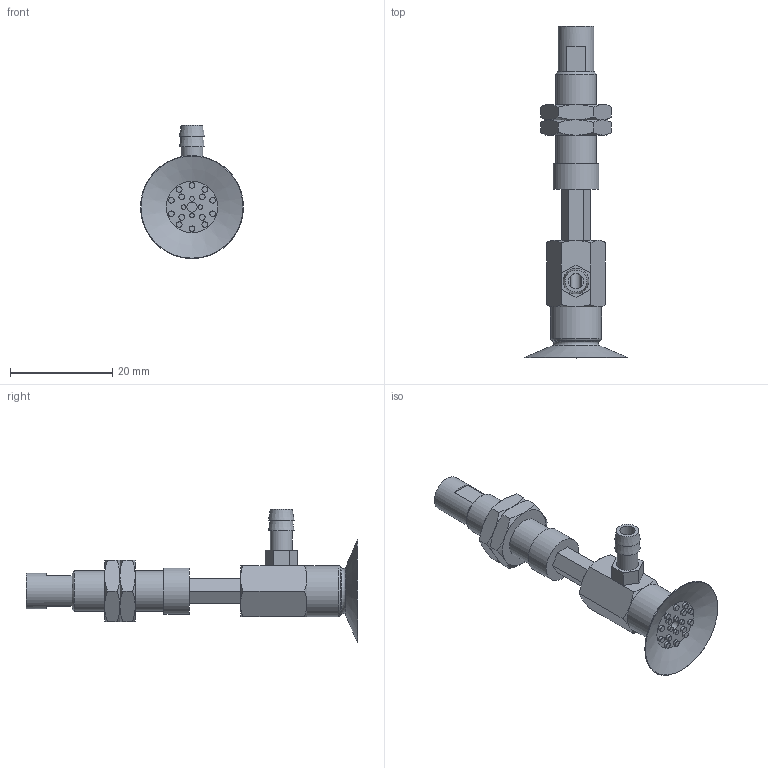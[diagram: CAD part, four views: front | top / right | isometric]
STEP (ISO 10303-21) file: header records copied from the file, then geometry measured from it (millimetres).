
FILE_DESCRIPTION(('STEP AP203'),'1');
FILE_NAME('-T.stp','2025-03-13T03:24:23',(' '),(' '),'Spatial InterOp 3D',' ',' ');
FILE_SCHEMA(('CONFIG_CONTROL_DESIGN'));
Length unit declared in the file: millimetre
Products named in the file (7): BNABPAYH-20A-10-※-T; NAPATH-20A-10--M; NAPATH-20A-10--F; Nut-10A-S; CONNECTOR-20A-10-PA; CONNECTOR-10A-3-T-PA; BPAG-20A-※
Assembly tree (7 placements, depth 2):
  BNABPAYH-20A-10-※-T
    NAPATH-20A-10--M
    NAPATH-20A-10--F
    Nut-10A-S  x2
    CONNECTOR-20A-10-PA
    CONNECTOR-10A-3-T-PA
    BPAG-20A-※
Bounding box: 20.19 x 65 x 26.09 mm (x, y, z)
Volume: 3998.4 mm3; surface area: 5248.1 mm2
Topology: 7 solids, 7 shells, 193 faces, 390 edges, 242 vertices
Faces by surface type: plane 93, cone 54, cylinder 36, torus 10
Full cylindrical faces by diameter (mm): 0.9 x4, 1.1 x14, 2 x2, 3 x1, 4 x2, 4.134 x2, 4.3 x1, 5 x2, 6 x2, 7 x1, 7.188 x2, 8 x1, 9 x1, 10 x1
Entity records: 4646 total; most frequent: CARTESIAN_POINT 1006, DIRECTION 702, ORIENTED_EDGE 548, AXIS2_PLACEMENT_3D 304, EDGE_CURVE 274, EDGE_LOOP 272, FACE_OUTER_BOUND 215, VERTEX_POINT 206
